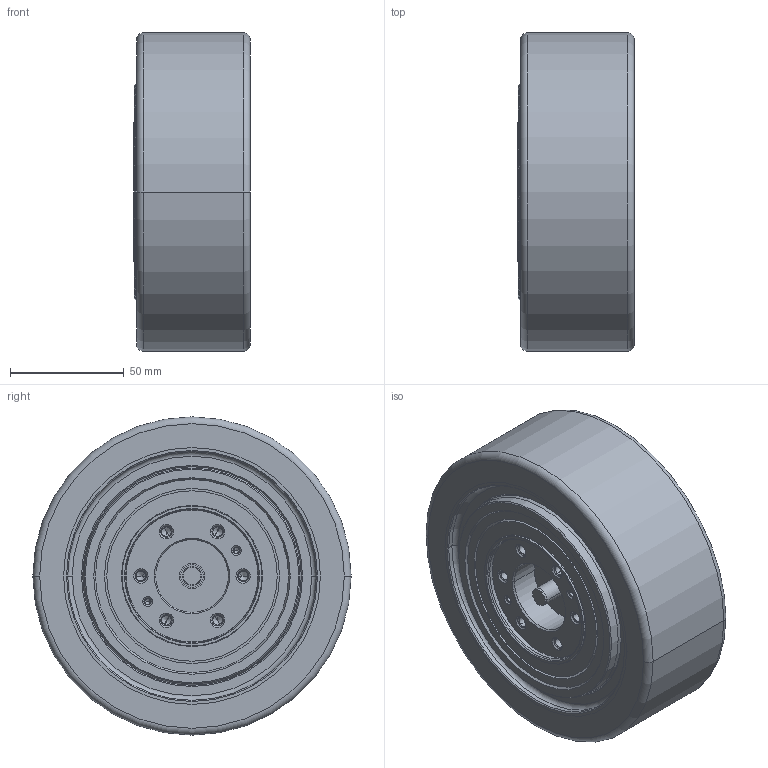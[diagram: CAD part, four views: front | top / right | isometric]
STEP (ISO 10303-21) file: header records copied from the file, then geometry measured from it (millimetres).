
FILE_DESCRIPTION((''),'2;1');
FILE_NAME('IMS100_DRIVE_LN_ASM','2024-06-07T13:43:05',('cmolke'),(''),'CREO PARAMETRIC BY PTC INC, 2020184','CREO PARAMETRIC BY PTC INC, 2020184','');
FILE_SCHEMA(('AUTOMOTIVE_DESIGN { 1 0 10303 214 1 1 1 1 }'));
Length unit declared in the file: millimetre
Products named in the file (9): IMS100_DRIVE_LN_WHEEL_CARRIER; IMS100_DRIVE_LN_RING_GEAR; IMS100_DRIVE_LN_BASE_WHEEL_1; IMS100_DRIVE_LN_BASE_WHEEL_2; IMS100_DRIVE_LN_WHEEL_ASM; IMS100_DRIVE_LN_SCREW; IMS100_DRIVE_LN_THRUST_WASHER; IMS100_DRIVE_LN_MO_PINION; IMS100_DRIVE_LN_ASM
Assembly tree (13 placements, depth 3):
  IMS100_DRIVE_LN_ASM
    IMS100_DRIVE_LN_WHEEL_CARRIER
    IMS100_DRIVE_LN_RING_GEAR
    IMS100_DRIVE_LN_WHEEL_ASM
      IMS100_DRIVE_LN_BASE_WHEEL_1
      IMS100_DRIVE_LN_BASE_WHEEL_2
    IMS100_DRIVE_LN_SCREW  x6
    IMS100_DRIVE_LN_THRUST_WASHER
    IMS100_DRIVE_LN_MO_PINION
Bounding box: 51.2 x 140 x 140 mm (x, y, z)
Volume: 683862.6 mm3; surface area: 166064.1 mm2
Topology: 12 solids, 27 shells, 505 faces, 1148 edges, 690 vertices
Faces by surface type: cylinder 166, cone 148, plane 139, torus 52
Entity records: 23796 total; most frequent: DIRECTION 2301, CARTESIAN_POINT 1831, PROPERTY_DEFINITION 1426, REPRESENTATION 1417, PROPERTY_DEFINITION_REPRESENTATION 1417, ORIENTED_EDGE 1416, GENERAL_PROPERTY 1194, GENERAL_PROPERTY_ASSOCIATION 1194
